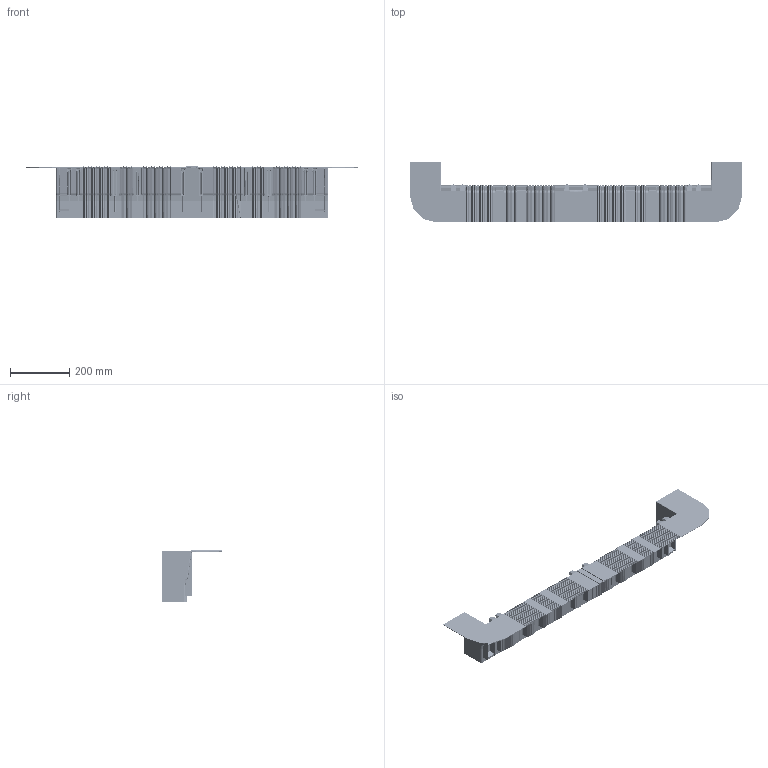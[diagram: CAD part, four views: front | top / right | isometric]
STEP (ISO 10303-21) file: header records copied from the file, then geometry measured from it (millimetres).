
FILE_DESCRIPTION (( 'STEP AP203' ), '1' );
FILE_NAME ('E-02377-24 - 5 - Assembly - FocusMX Marketing - 6x36 - 10-12-18.STEP', '2018-10-12T18:45:10', ( '' ), ( '' ), 'SwSTEP 2.0', 'SolidWorks 2018', '' );
FILE_SCHEMA (( 'CONFIG_CONTROL_DESIGN' ));
Length unit declared in the file: inch
Products named in the file (3): E-02377-24 - 5 - Assembly - FocusMX Marketing - 6x36 - 10-12-18; E-02377-24 - 5_6x18; E-02377-24 - 5 - mirrored_6x18
Assembly tree (2 placements, depth 2):
  E-02377-24 - 5 - Assembly - FocusMX Marketing - 6x36 - 10-12-18
    E-02377-24 - 5_6x18
    E-02377-24 - 5 - mirrored_6x18
Bounding box: 1117.6 x 205.26 x 174.06 mm (x, y, z)
Topology: 0 solids, 12 shells, 18937 faces, 42767 edges, 23941 vertices
Faces by surface type: cylinder 5809, plane 4602, torus 3869, cone 2484, bspline 2066, sphere 107
Full cylindrical faces by diameter (mm): 1.575 x1
Entity records: 588035 total; most frequent: CARTESIAN_POINT 174112, DIRECTION 90078, ORIENTED_EDGE 85148, EDGE_CURVE 42573, AXIS2_PLACEMENT_3D 35181, VERTEX_POINT 23937, LINE 19716, VECTOR 19716
